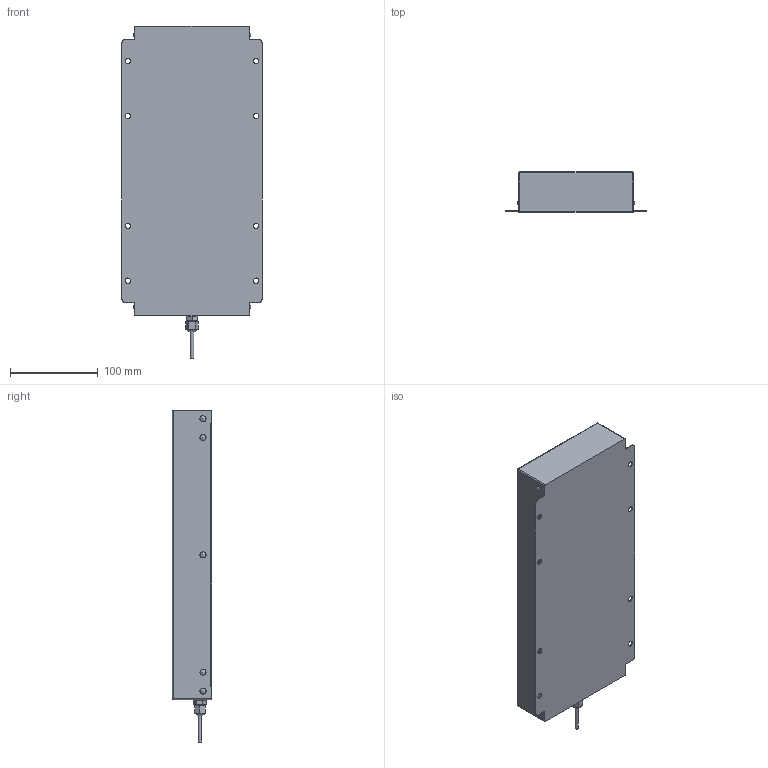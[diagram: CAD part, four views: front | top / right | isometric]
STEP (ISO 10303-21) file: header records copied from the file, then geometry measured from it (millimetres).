
FILE_DESCRIPTION (( 'STEP AP203' ), '1' );
FILE_NAME ('HDSBPA-300x100_-24.STEP', '2023-04-18T04:24:46', ( '' ), ( '' ), 'SwSTEP 2.0', 'SolidWorks 2022', '' );
FILE_SCHEMA (( 'CONFIG_CONTROL_DESIGN' ));
Length unit declared in the file: millimetre
Products named in the file (1): HDSBPA-300x100_-24
Bounding box: 160 x 45 x 378 mm (x, y, z)
Volume: 1911783.6 mm3; surface area: 146473.2 mm2
Topology: 1 solids, 1 shells, 96 faces, 263 edges, 171 vertices
Faces by surface type: plane 48, cylinder 33, sphere 14, torus 1
Full cylindrical faces by diameter (mm): 3.7 x1, 6.2 x8, 6.9 x10, 10 x1, 12.5 x1
Entity records: 2611 total; most frequent: DIRECTION 460, CARTESIAN_POINT 415, ORIENTED_EDGE 374, EDGE_CURVE 187, AXIS2_PLACEMENT_3D 176, EDGE_LOOP 150, VERTEX_POINT 131, FACE_OUTER_BOUND 118
